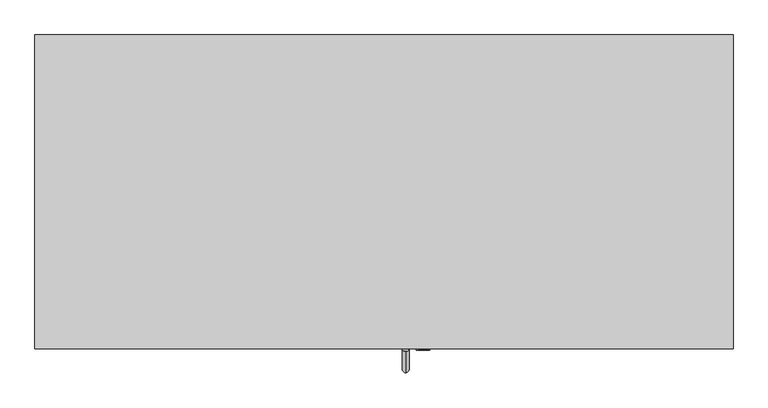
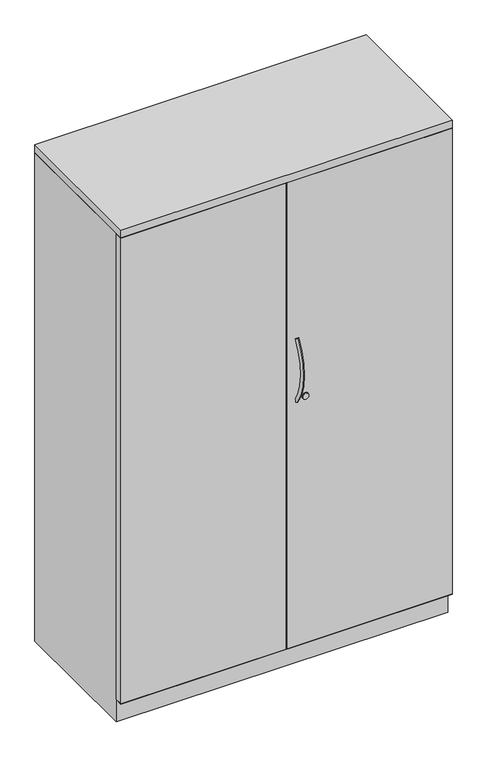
"""IFC4 building model written with IfcOpenShell, lengths in millimetres: furniture geometry, Steelcase - Universal Storage - Cabinet - Storage - 66H-84H - Proud Steel : 66H x 18D x 42W."""

from ifc_helpers import new_model, si_unit, point, frame, frame_2d, origin, place, context, project, spatial, polyline, circle_curve, ellipse_curve, trimmed, segment, composite_curve, outline, extrude, faceted_brep, source, transform, mapped, element, save
from ifc_brep_helpers import plane_surface, revolved_surface, advanced_brep


def furniture_740ad5a4(model_context):
    return source(origin(), model_context, "Body", "SolidModel", [
        extrude(outline(polyline([(1066.8, 0.0), (1066.8, -479.552), (0.0, -479.552), (0.0, 0.0), (1066.8, 0.0)])), frame((0.0, 0.0, 1663.7), z_axis=(0.0, 0.0, 1.0), x_axis=(1.0, 0.0, 0.0)), (0.0, 0.0, 1.0), 25.4),
        extrude(outline(composite_curve([segment(trimmed(circle_curve(frame_2d((917.702, 592.9418131)), 10.16), [point((917.702, 603.1018131))], [point((917.702, 582.7818131))], False, "CARTESIAN"), True, "CONTINUOUS"), segment(trimmed(circle_curve(frame_2d((917.702, 592.9418131)), 10.16), [point((917.702, 582.7818131))], [point((917.702, 603.1018131))], False, "CARTESIAN"), True, "CONTINUOUS")], self_intersect=False)), frame((0.0, -481.965031, 0.0), z_axis=(0.0, 1.0, 0.0), x_axis=(0.0, 0.0, 1.0)), (0.0, 0.0, 1.0), 2.413031),
        advanced_brep(
        [(566.4783765, -474.9744318, 1119.7196018), (566.4783765, -483.5741633, 1125.3900503), (566.4783765, -472.5471581, 911.9931915), (566.4783765, -481.0120418, 906.1233437)],
        [
            (0, 1, circle_curve(frame((566.4783765, -479.2742976, 1122.5548261), z_axis=(0.0, 0.5504787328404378, 0.83484918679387), x_axis=(0.0, -0.83484918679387, 0.5504787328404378)), 5.1504701)),
            (1, 0, circle_curve(frame((566.4783765, -479.2742976, 1122.5548261), z_axis=(0.0, 0.5504787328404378, 0.83484918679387), x_axis=(0.0, -0.83484918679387, 0.5504787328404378)), 5.1504701)),
            (2, 3, circle_curve(frame((566.4783765, -476.7796, 909.0582676), z_axis=(0.0, 0.5698361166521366, -0.8217583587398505), x_axis=(0.0, -0.8217583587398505, -0.5698361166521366)), 5.1504701)),
            (3, 2, circle_curve(frame((566.4783765, -476.7796, 909.0582676), z_axis=(0.0, 0.5698361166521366, -0.8217583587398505), x_axis=(0.0, -0.8217583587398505, -0.5698361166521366)), 5.1504701)),
            (3, 1, circle_curve(frame((566.4783765, -320.178461, 1017.6509992), z_axis=(-1.0, 0.0, 0.0), x_axis=(0.0, -0.83484918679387, 0.5504787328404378)), 195.7188256)),
            (0, 2, circle_curve(frame((566.4783765, -320.178461, 1017.6509992), z_axis=(1.0, 0.0, 0.0), x_axis=(0.0, -0.83484918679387, 0.5504787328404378)), 185.4178854)),
        ],
        [
            plane_surface(frame((566.4783765, -479.2742976, 1122.5548261), z_axis=(0.0, 0.5504787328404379, 0.83484918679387), x_axis=(-1.0, 0.0, 0.0))),
            plane_surface(frame((566.4783765, -476.7796, 909.0582676), z_axis=(0.0, 0.5698361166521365, -0.8217583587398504), x_axis=(-1.0, 0.0, 0.0))),
            revolved_surface(trimmed(ellipse_curve(frame((566.4783765, -479.2742976, 1122.5548261), z_axis=(0.0, 0.5504787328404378, 0.83484918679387), x_axis=(0.0, -0.83484918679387, 0.5504787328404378)), 5.1504701, 5.1504701), [point((566.4783765, -474.9744318, 1119.7196018))], [point((566.4783765, -483.5741633, 1125.3900503))], True, "CARTESIAN"), (566.4783765, -320.178461, 1017.6509992), (1.0, 0.0, 0.0)),
            revolved_surface(trimmed(ellipse_curve(frame((566.4783765, -479.2742976, 1122.5548261), z_axis=(0.0, 0.5504787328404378, 0.83484918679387), x_axis=(0.0, -0.83484918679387, 0.5504787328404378)), 5.1504701, 5.1504701), [point((566.4783765, -483.5741633, 1125.3900503))], [point((566.4783765, -474.9744318, 1119.7196018))], True, "CARTESIAN"), (566.4783765, -320.178461, 1017.6509992), (1.0, 0.0, 0.0)),
        ],
        [
            (0, [[1, 2]]),
            (1, [[3, 4]]),
            (2, [[5, -1, 6, -4]]),
            (3, [[-6, -2, -5, -3]]),
        ],
    ),
        extrude(outline(composite_curve([segment(trimmed(circle_curve(frame_2d((919.3669832, 593.2109835)), 9.7167829), [point((919.3669832, 602.9277664))], [point((919.3669832, 583.4942006))], False, "CARTESIAN"), True, "CONTINUOUS"), segment(trimmed(circle_curve(frame_2d((919.3669832, 593.2109835)), 9.7167829), [point((919.3669832, 583.4942006))], [point((919.3669832, 602.9277664))], False, "CARTESIAN"), True, "CONTINUOUS")], self_intersect=False)), frame((0.0, -480.2215275, 0.0), z_axis=(0.0, 1.0, 0.0), x_axis=(0.0, 0.0, 1.0)), (0.0, 0.0, 1.0), 0.6695275),
        extrude(outline(polyline([(0.0, -479.552), (0.0, -454.1528418), (530.86, -454.1528418), (530.86, -479.552), (0.0, -479.552)])), frame((0.0, 0.0, 77.724), z_axis=(0.0, 0.0, 1.0), x_axis=(1.0, 0.0, 0.0)), (0.0, 0.0, 1.0), 1584.452),
        extrude(outline(polyline([(1066.8, -454.1528418), (1066.8, -479.552), (535.94, -479.552), (535.94, -454.1528418), (1066.8, -454.1528418)])), frame((0.0, 0.0, 77.724), z_axis=(0.0, 0.0, 1.0), x_axis=(1.0, 0.0, 0.0)), (0.0, 0.0, 1.0), 1584.452),
        faceted_brep([(1066.8, 0.0, 0.0), (1066.8, -452.6288432, 0.0), (0.0, -452.6288432, 0.0), (0.0, 0.0, 0.0), (0.0, 0.0, 1662.176), (1066.8, 0.0, 1662.176), (0.0, -452.6288432, 76.2), (0.0, -479.552, 76.2), (0.0, -479.552, 77.724), (0.0, -452.6288432, 77.724), (0.0, -452.6288432, 1662.176), (1066.8, -452.6288432, 76.2), (1066.8, -452.6288432, 1662.176), (1066.8, -452.6288432, 77.724), (1066.8, -479.4258418, 77.724), (1066.8, -479.552, 76.2), (1041.4000242, -25.4000008, 1662.176), (1041.4000242, -452.6288432, 1662.176), (25.3999758, -452.6288432, 1662.176), (25.3999758, -25.4000008, 1662.176), (1041.4000242, -25.4000008, 77.724), (1041.4000242, -452.6288432, 77.724), (25.3999758, -452.6288432, 77.724), (25.3999758, -25.4000008, 77.724), (4.6981334, -454.1528418, 77.724), (1041.4000242, -454.1528418, 77.724)], [[[0, 1, 2, 3]], [[0, 3, 4, 5]], [[4, 3, 2, 6, 7, 8, 9, 10]], [[2, 1, 11, 6]], [[1, 0, 5, 12, 13, 14, 15, 11]], [[16, 17, 12, 5, 4, 10, 18, 19]], [[17, 16, 20, 21]], [[12, 17, 21, 13]], [[18, 10, 9, 22]], [[19, 18, 22, 23]], [[16, 19, 23, 20]], [[8, 24, 25, 14, 13, 21, 20, 23, 22, 9]], [[15, 7, 6, 11]], [[24, 8, 7]], [[25, 24, 7, 15]], [[14, 25, 15]]]),
    ])


if __name__ == "__main__":
    model = new_model("IFC4")
    model_context = context("Model", 3, world=origin())
    ifc_project = project(units=[si_unit("LENGTHUNIT", "METRE", prefix="MILLI")], contexts=[model_context])
    site = spatial("IfcSite", under=ifc_project)
    building = spatial("IfcBuilding", under=site)
    placement = place(None, origin())
    furniture_shape = furniture_740ad5a4(model_context)
    element("IfcFurniture", 1, ObjectType="Steelcase - Universal Storage - Cabinet - Storage - 66H-84H - Proud Steel : 66H x 18D x 42W", at=placement, inside=building, context=model_context, shape_type="MappedRepresentation", body=[
        mapped(furniture_shape, transform((0.0, 0.0, 0.0), x_axis=(1.0, 0.0, 0.0), y_axis=(0.0, 1.0, 0.0), z_axis=(0.0, 0.0, 1.0))),
    ])
    save(model, "model.ifc")
